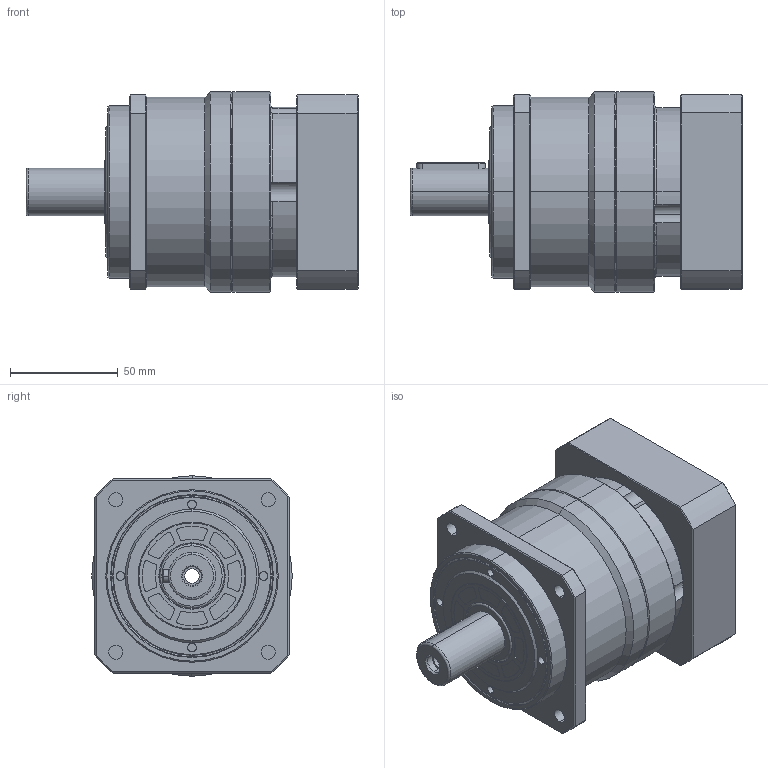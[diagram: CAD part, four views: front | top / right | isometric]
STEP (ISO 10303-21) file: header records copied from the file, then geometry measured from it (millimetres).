
FILE_DESCRIPTION (( 'STEP AP203' ), '1' );
FILE_NAME ('KS90-5-80-19-48-M6-100.STEP', '2020-08-12T02:13:12', ( '微软用户' ), ( '微软中国' ), 'SwSTEP 2.0', 'SolidWorks 2008', '' );
FILE_SCHEMA (( 'CONFIG_CONTROL_DESIGN' ));
Length unit declared in the file: millimetre
Products named in the file (1): KS90-5-80-19-48-M6-100
Bounding box: 154 x 93 x 93 mm (x, y, z)
Surface area: 86885 mm2 (no closed solid volume)
Topology: 0 solids, 26 shells, 419 faces, 1313 edges, 891 vertices
Faces by surface type: plane 160, cylinder 152, cone 72, torus 35
Entity records: 15065 total; most frequent: CARTESIAN_POINT 3205, DIRECTION 2634, ORIENTED_EDGE 2175, EDGE_CURVE 1305, AXIS2_PLACEMENT_3D 1018, VERTEX_POINT 891, CIRCLE 598, VECTOR 598
